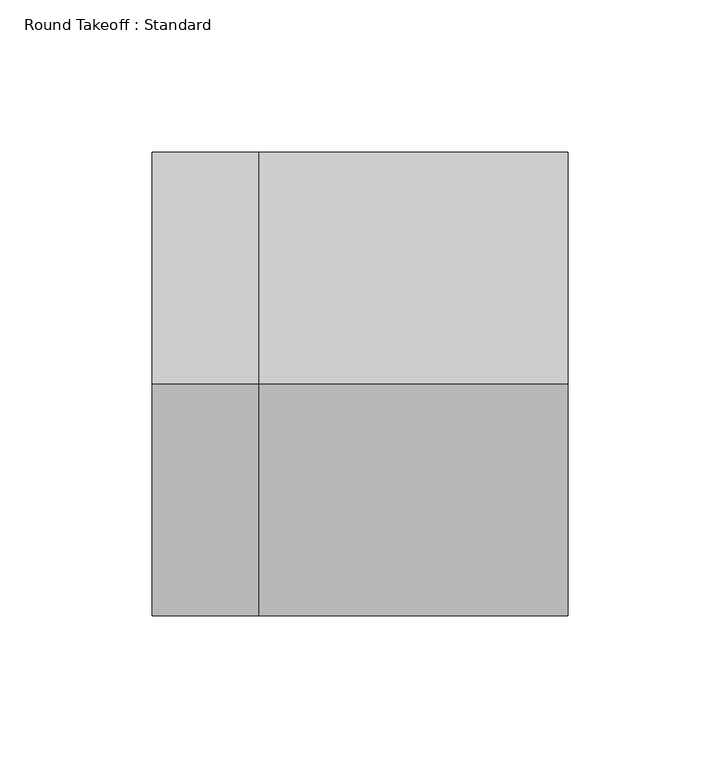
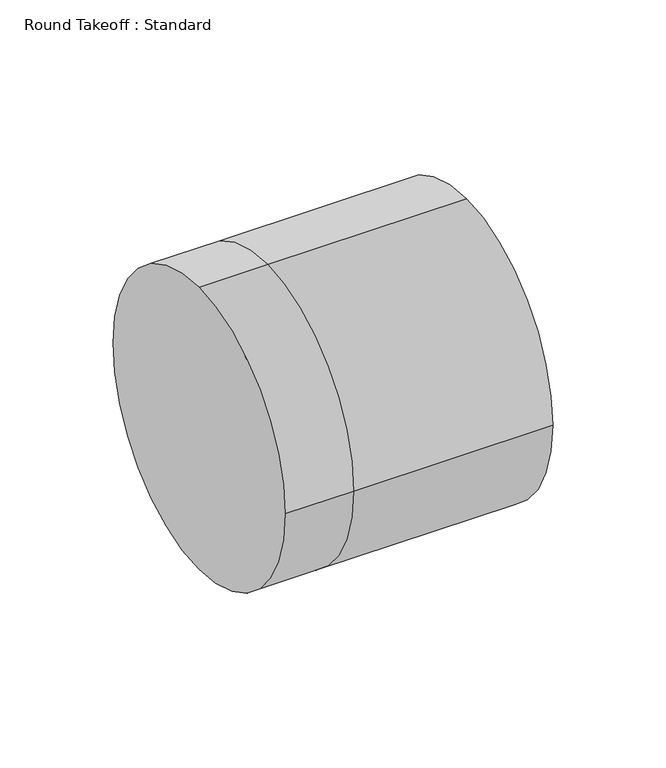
"""IFC4 building model written with IfcOpenShell, lengths in millimetres: duct fitting geometry, Round Takeoff : Standard."""

from ifc_helpers import new_model, si_unit, frame, origin, place, context, project, spatial, circle_curve, source, transform, mapped, element, save
from ifc_brep_helpers import plane_surface, cylinder_surface, advanced_brep


def round_takeoff_standard_d0146e83(model_context):
    return source(origin(), model_context, "Body", "AdvancedBrep", [
        advanced_brep(
        [(101.6, 0.0, 76.2), (101.6, -76.2, 0.0), (101.6, 0.0, -76.2), (101.6, 76.2, 0.0), (0.0, 76.2, 0.0), (0.0, 0.0, 76.2), (0.0, 0.0, -76.2), (0.0, -76.2, 0.0), (-35.2018101, 0.0, 76.2), (-35.2018101, 76.2, 0.0), (-35.2018101, 0.0, -76.2), (-35.2018101, -76.2, 0.0)],
        [
            (0, 1, circle_curve(frame((101.6, 0.0, 0.0), z_axis=(1.0, 0.0, 0.0), x_axis=(0.0, 1.0, 0.0)), 76.2)),
            (1, 2, circle_curve(frame((101.6, 0.0, 0.0), z_axis=(1.0, 0.0, 0.0), x_axis=(0.0, 1.0, 0.0)), 76.2)),
            (2, 3, circle_curve(frame((101.6, 0.0, 0.0), z_axis=(1.0, 0.0, 0.0), x_axis=(0.0, 1.0, 0.0)), 76.2)),
            (3, 0, circle_curve(frame((101.6, 0.0, 0.0), z_axis=(1.0, 0.0, 0.0), x_axis=(0.0, 1.0, 0.0)), 76.2)),
            (3, 4),
            (4, 5, circle_curve(frame((0.0, 0.0, 0.0), z_axis=(1.0, 0.0, 0.0), x_axis=(0.0, 1.0, 0.0)), 76.2)),
            (5, 0),
            (2, 6),
            (6, 4, circle_curve(frame((0.0, 0.0, 0.0), z_axis=(1.0, 0.0, 0.0), x_axis=(0.0, 1.0, 0.0)), 76.2)),
            (1, 7),
            (7, 6, circle_curve(frame((0.0, 0.0, 0.0), z_axis=(1.0, 0.0, 0.0), x_axis=(0.0, 1.0, 0.0)), 76.2)),
            (5, 7, circle_curve(frame((0.0, 0.0, 0.0), z_axis=(1.0, 0.0, 0.0), x_axis=(0.0, 1.0, 0.0)), 76.2)),
            (8, 9, circle_curve(frame((-35.2018101, 0.0, 0.0), z_axis=(-1.0, 0.0, 0.0), x_axis=(0.0, 1.0, 0.0)), 76.2)),
            (9, 10, circle_curve(frame((-35.2018101, 0.0, 0.0), z_axis=(-1.0, 0.0, 0.0), x_axis=(0.0, 1.0, 0.0)), 76.2)),
            (10, 11, circle_curve(frame((-35.2018101, 0.0, 0.0), z_axis=(-1.0, 0.0, 0.0), x_axis=(0.0, 1.0, 0.0)), 76.2)),
            (11, 8, circle_curve(frame((-35.2018101, 0.0, 0.0), z_axis=(-1.0, 0.0, 0.0), x_axis=(0.0, 1.0, 0.0)), 76.2)),
            (8, 5),
            (4, 9),
            (6, 10),
            (7, 11),
        ],
        [
            plane_surface(frame((101.6, 0.0, 0.0), z_axis=(1.0, 0.0, 0.0), x_axis=(0.0, 0.0, 1.0))),
            cylinder_surface(frame((0.0, 0.0, 0.0), z_axis=(-1.0, 0.0, 0.0), x_axis=(0.0, 1.0, 0.0)), 76.2),
            plane_surface(frame((-35.2018101, 0.0, 0.0), z_axis=(-1.0, 0.0, 0.0), x_axis=(0.0, 0.0, 1.0))),
            cylinder_surface(frame((-35.2018101, 0.0, 0.0), z_axis=(-1.0, 0.0, 0.0), x_axis=(0.0, 1.0, 0.0)), 76.2),
        ],
        [
            (0, [[1, 2, 3, 4]]),
            (1, [[-4, 5, 6, 7]]),
            (1, [[-3, 8, 9, -5]]),
            (1, [[-2, 10, 11, -8]]),
            (1, [[-1, -7, 12, -10]]),
            (2, [[13, 14, 15, 16]]),
            (3, [[-13, 17, -6, 18]]),
            (3, [[-14, -18, -9, 19]]),
            (3, [[-15, -19, -11, 20]]),
            (3, [[-16, -20, -12, -17]]),
        ],
    ),
    ])


if __name__ == "__main__":
    model = new_model("IFC4")
    model_context = context("Model", 3, world=origin())
    ifc_project = project(units=[si_unit("LENGTHUNIT", "METRE", prefix="MILLI")], contexts=[model_context])
    site = spatial("IfcSite", under=ifc_project)
    building = spatial("IfcBuilding", under=site)
    placement = place(None, origin())
    round_takeoff_standard_shape = round_takeoff_standard_d0146e83(model_context)
    element("IfcDuctFitting", 1, ObjectType="Round Takeoff : Standard", at=placement, inside=building, context=model_context, shape_type="MappedRepresentation", body=[
        mapped(round_takeoff_standard_shape, transform((0.0, 0.0, 0.0), x_axis=(1.0, 0.0, 0.0), y_axis=(0.0, 1.0, 0.0), z_axis=(0.0, 0.0, 1.0))),
    ])
    save(model, "model.ifc")
